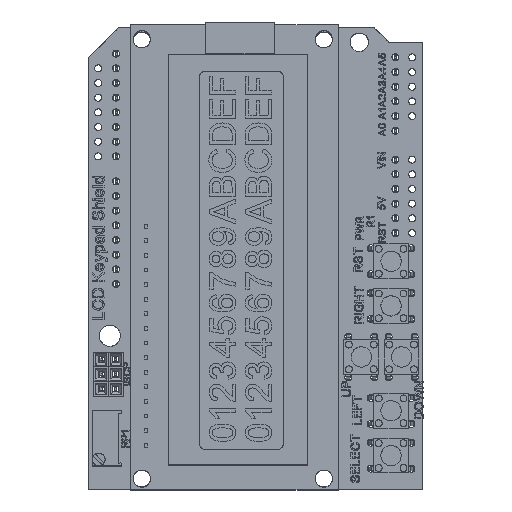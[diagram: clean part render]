
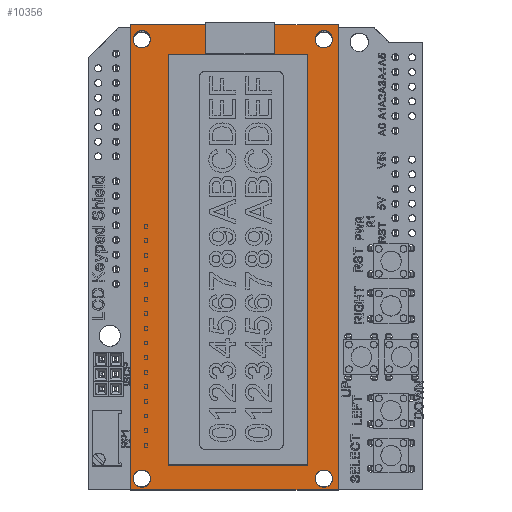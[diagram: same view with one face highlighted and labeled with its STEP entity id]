
A CAD part, top view. The second image highlights one B-rep face of the part: STEP entity #10356.
In plain terms, the highlighted planar face has unit normal (0, 0, 1).
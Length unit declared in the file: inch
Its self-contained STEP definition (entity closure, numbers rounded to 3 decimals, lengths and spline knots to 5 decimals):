
#1262=(
BOUNDED_CURVE()
B_SPLINE_CURVE(2,(#48820,#48821,#48822,#48823,#48824,#48825,#48826,#48827,
#48828),.UNSPECIFIED.,.T.,.F.)
B_SPLINE_CURVE_WITH_KNOTS((3,2,2,2,3),(-0.36757,-0.27567,
-0.18378,-0.09189,0.),.UNSPECIFIED.)
CURVE()
GEOMETRIC_REPRESENTATION_ITEM()
RATIONAL_B_SPLINE_CURVE((1.,0.707,1.,0.707,1.,0.707,
1.,0.707,1.))
REPRESENTATION_ITEM('')
);
#1263=(
BOUNDED_CURVE()
B_SPLINE_CURVE(2,(#48829,#48830,#48831,#48832,#48833,#48834,#48835,#48836,
#48837),.UNSPECIFIED.,.T.,.F.)
B_SPLINE_CURVE_WITH_KNOTS((3,2,2,2,3),(-0.36757,-0.27567,
-0.18378,-0.09189,0.),.UNSPECIFIED.)
CURVE()
GEOMETRIC_REPRESENTATION_ITEM()
RATIONAL_B_SPLINE_CURVE((1.,0.707,1.,0.707,1.,0.707,
1.,0.707,1.))
REPRESENTATION_ITEM('')
);
#1264=(
BOUNDED_CURVE()
B_SPLINE_CURVE(2,(#48838,#48839,#48840,#48841,#48842,#48843,#48844,#48845,
#48846),.UNSPECIFIED.,.T.,.F.)
B_SPLINE_CURVE_WITH_KNOTS((3,2,2,2,3),(-0.36757,-0.27567,
-0.18378,-0.09189,0.),.UNSPECIFIED.)
CURVE()
GEOMETRIC_REPRESENTATION_ITEM()
RATIONAL_B_SPLINE_CURVE((1.,0.707,1.,0.707,1.,0.707,
1.,0.707,1.))
REPRESENTATION_ITEM('')
);
#1265=(
BOUNDED_CURVE()
B_SPLINE_CURVE(2,(#48847,#48848,#48849,#48850,#48851,#48852,#48853,#48854,
#48855),.UNSPECIFIED.,.T.,.F.)
B_SPLINE_CURVE_WITH_KNOTS((3,2,2,2,3),(-0.36757,-0.27567,
-0.18378,-0.09189,0.),.UNSPECIFIED.)
CURVE()
GEOMETRIC_REPRESENTATION_ITEM()
RATIONAL_B_SPLINE_CURVE((1.,0.707,1.,0.707,1.,0.707,
1.,0.707,1.))
REPRESENTATION_ITEM('')
);
#10356=ADVANCED_FACE('',(#12853,#12332,#12333,#12334,#12335),#32831,.T.);
#12332=FACE_BOUND('',#15172,.T.);
#12333=FACE_BOUND('',#15173,.T.);
#12334=FACE_BOUND('',#15174,.T.);
#12335=FACE_BOUND('',#15175,.T.);
#12853=FACE_OUTER_BOUND('',#15171,.T.);
#15171=EDGE_LOOP('',(#18346,#18347,#18348,#18349));
#15172=EDGE_LOOP('',(#18350));
#15173=EDGE_LOOP('',(#18351));
#15174=EDGE_LOOP('',(#18352));
#15175=EDGE_LOOP('',(#18353));
#18346=ORIENTED_EDGE('',*,*,#22568,.T.);
#18347=ORIENTED_EDGE('',*,*,#22569,.T.);
#18348=ORIENTED_EDGE('',*,*,#22570,.T.);
#18349=ORIENTED_EDGE('',*,*,#22571,.T.);
#18350=ORIENTED_EDGE('',*,*,#22564,.T.);
#18351=ORIENTED_EDGE('',*,*,#22565,.T.);
#18352=ORIENTED_EDGE('',*,*,#22566,.T.);
#18353=ORIENTED_EDGE('',*,*,#22567,.T.);
#22564=EDGE_CURVE('',#29555,#29555,#1262,.T.);
#22565=EDGE_CURVE('',#29556,#29556,#1263,.T.);
#22566=EDGE_CURVE('',#29557,#29557,#1264,.T.);
#22567=EDGE_CURVE('',#29558,#29558,#1265,.T.);
#22568=EDGE_CURVE('',#29551,#29552,#25931,.T.);
#22569=EDGE_CURVE('',#29552,#29553,#25932,.T.);
#22570=EDGE_CURVE('',#29553,#29554,#25933,.T.);
#22571=EDGE_CURVE('',#29554,#29551,#25934,.T.);
#25931=B_SPLINE_CURVE_WITH_KNOTS('',1,(#48856,#48857),.UNSPECIFIED.,.F.,
 .F.,(2,2),(0.,1.41732),.UNSPECIFIED.);
#25932=B_SPLINE_CURVE_WITH_KNOTS('',1,(#48858,#48859),.UNSPECIFIED.,.F.,
 .F.,(2,2),(-3.16929,0.),.UNSPECIFIED.);
#25933=B_SPLINE_CURVE_WITH_KNOTS('',1,(#48860,#48861),.UNSPECIFIED.,.F.,
 .F.,(2,2),(-1.41732,0.),.UNSPECIFIED.);
#25934=B_SPLINE_CURVE_WITH_KNOTS('',1,(#48862,#48863),.UNSPECIFIED.,.F.,
 .F.,(2,2),(0.,3.16929),.UNSPECIFIED.);
#29551=VERTEX_POINT('',#48812);
#29552=VERTEX_POINT('',#48813);
#29553=VERTEX_POINT('',#48814);
#29554=VERTEX_POINT('',#48815);
#29555=VERTEX_POINT('',#48816);
#29556=VERTEX_POINT('',#48817);
#29557=VERTEX_POINT('',#48818);
#29558=VERTEX_POINT('',#48819);
#32831=PLANE('',#34516);
#34516=AXIS2_PLACEMENT_3D('',#48811,#36181,$);
#36181=DIRECTION('',(0.,0.,1.));
#48811=CARTESIAN_POINT('',(-0.35268,-1.28188,1.68531));
#48812=CARTESIAN_POINT('',(-0.35268,-1.28188,1.68531));
#48813=CARTESIAN_POINT('',(-1.77,-1.28188,1.68531));
#48814=CARTESIAN_POINT('',(-1.77,-4.45118,1.68531));
#48815=CARTESIAN_POINT('',(-0.35268,-4.45118,1.68531));
#48816=CARTESIAN_POINT('',(-0.45018,-4.31531,1.68531));
#48817=CARTESIAN_POINT('',(-0.45018,-1.32088,1.68531));
#48818=CARTESIAN_POINT('',(-1.69063,-4.31531,1.68531));
#48819=CARTESIAN_POINT('',(-1.69063,-1.32088,1.68531));
#48820=CARTESIAN_POINT('',(-0.45018,-4.31531,1.68531));
#48821=CARTESIAN_POINT('',(-0.39168,-4.31531,1.68531));
#48822=CARTESIAN_POINT('',(-0.39168,-4.37381,1.68531));
#48823=CARTESIAN_POINT('',(-0.39168,-4.43231,1.68531));
#48824=CARTESIAN_POINT('',(-0.45018,-4.43231,1.68531));
#48825=CARTESIAN_POINT('',(-0.50868,-4.43231,1.68531));
#48826=CARTESIAN_POINT('',(-0.50868,-4.37381,1.68531));
#48827=CARTESIAN_POINT('',(-0.50868,-4.31531,1.68531));
#48828=CARTESIAN_POINT('',(-0.45018,-4.31531,1.68531));
#48829=CARTESIAN_POINT('',(-0.45018,-1.32088,1.68531));
#48830=CARTESIAN_POINT('',(-0.39168,-1.32088,1.68531));
#48831=CARTESIAN_POINT('',(-0.39168,-1.37938,1.68531));
#48832=CARTESIAN_POINT('',(-0.39168,-1.43788,1.68531));
#48833=CARTESIAN_POINT('',(-0.45018,-1.43788,1.68531));
#48834=CARTESIAN_POINT('',(-0.50868,-1.43788,1.68531));
#48835=CARTESIAN_POINT('',(-0.50868,-1.37938,1.68531));
#48836=CARTESIAN_POINT('',(-0.50868,-1.32088,1.68531));
#48837=CARTESIAN_POINT('',(-0.45018,-1.32088,1.68531));
#48838=CARTESIAN_POINT('',(-1.69063,-4.31531,1.68531));
#48839=CARTESIAN_POINT('',(-1.63213,-4.31531,1.68531));
#48840=CARTESIAN_POINT('',(-1.63213,-4.37381,1.68531));
#48841=CARTESIAN_POINT('',(-1.63213,-4.43231,1.68531));
#48842=CARTESIAN_POINT('',(-1.69063,-4.43231,1.68531));
#48843=CARTESIAN_POINT('',(-1.74913,-4.43231,1.68531));
#48844=CARTESIAN_POINT('',(-1.74913,-4.37381,1.68531));
#48845=CARTESIAN_POINT('',(-1.74913,-4.31531,1.68531));
#48846=CARTESIAN_POINT('',(-1.69063,-4.31531,1.68531));
#48847=CARTESIAN_POINT('',(-1.69063,-1.32088,1.68531));
#48848=CARTESIAN_POINT('',(-1.63213,-1.32088,1.68531));
#48849=CARTESIAN_POINT('',(-1.63213,-1.37938,1.68531));
#48850=CARTESIAN_POINT('',(-1.63213,-1.43788,1.68531));
#48851=CARTESIAN_POINT('',(-1.69063,-1.43788,1.68531));
#48852=CARTESIAN_POINT('',(-1.74913,-1.43788,1.68531));
#48853=CARTESIAN_POINT('',(-1.74913,-1.37938,1.68531));
#48854=CARTESIAN_POINT('',(-1.74913,-1.32088,1.68531));
#48855=CARTESIAN_POINT('',(-1.69063,-1.32088,1.68531));
#48856=CARTESIAN_POINT('',(-0.35268,-1.28188,1.68531));
#48857=CARTESIAN_POINT('',(-1.77,-1.28188,1.68531));
#48858=CARTESIAN_POINT('',(-1.77,-1.28188,1.68531));
#48859=CARTESIAN_POINT('',(-1.77,-4.45118,1.68531));
#48860=CARTESIAN_POINT('',(-1.77,-4.45118,1.68531));
#48861=CARTESIAN_POINT('',(-0.35268,-4.45118,1.68531));
#48862=CARTESIAN_POINT('',(-0.35268,-4.45118,1.68531));
#48863=CARTESIAN_POINT('',(-0.35268,-1.28188,1.68531));
